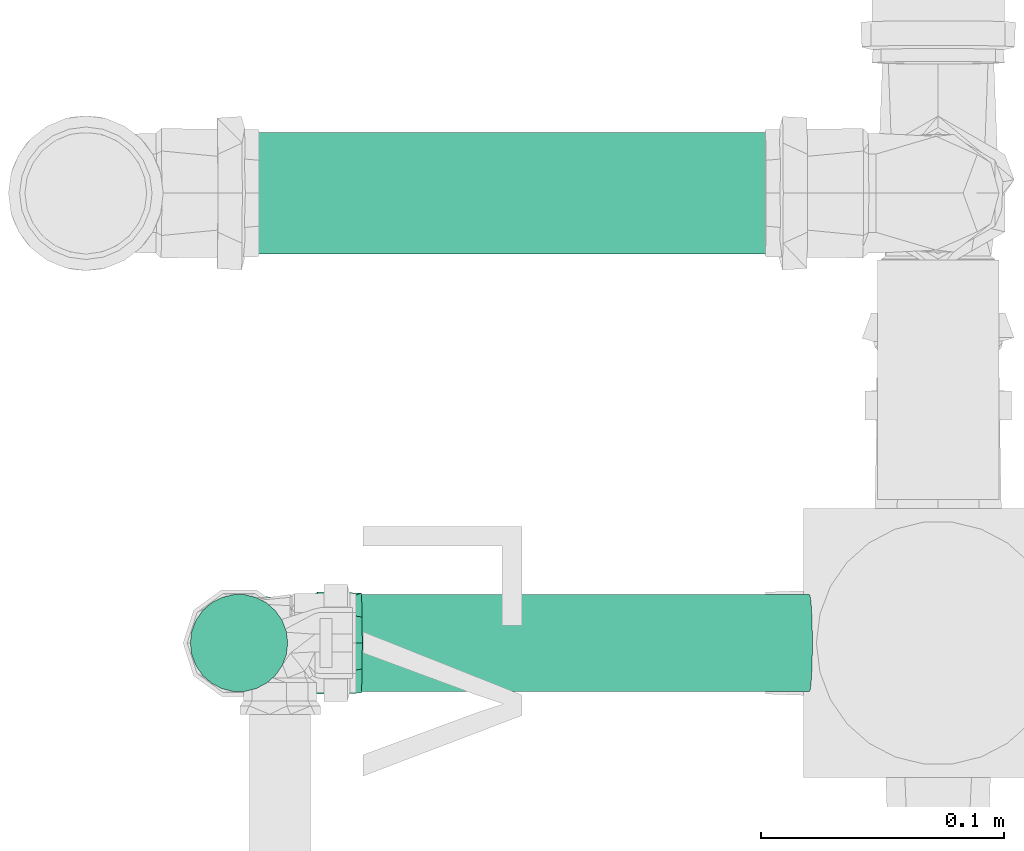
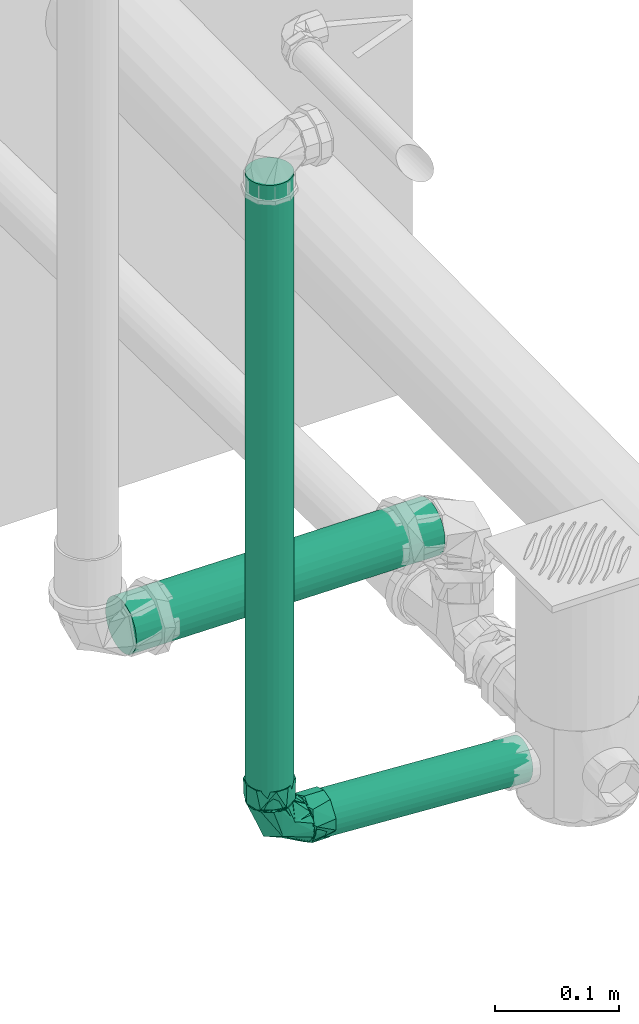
# One storey, part 213 of 589: 3 flow segments, 1 flow fitting.
"""IFC2X3 building model written with IfcOpenShell, lengths in millimetres."""

from ifc_helpers import new_model, entity, si_unit, converted_unit, derived_unit, direction, frame, frame_2d, origin, origin_2d_with_axis, place, context, subcontext, project, spatial, circle, extrude, faceted_brep, source, transform, mapped, material, type_object, type_shapes, element, save


model = new_model("IFC2X3")

# Units and contexts
model_context = context("Model", 3, precision=0.01, world=origin(), true_north=direction((6.123031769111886e-17, 1.0)))
body_context = subcontext(model_context, "Body", "Model", "MODEL_VIEW")
ifc_project = project(units=[si_unit("LENGTHUNIT", "METRE", prefix="MILLI"), si_unit("AREAUNIT", "SQUARE_METRE"), si_unit("VOLUMEUNIT", "CUBIC_METRE"), converted_unit("PLANEANGLEUNIT", "DEGREE", entity("IfcRatioMeasure", 0.017453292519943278), si_unit("PLANEANGLEUNIT", "RADIAN"), dimensions=[0, 0, 0, 0, 0, 0, 0]), si_unit("MASSUNIT", "GRAM", prefix="KILO"), derived_unit("MASSDENSITYUNIT", [(si_unit("MASSUNIT", "GRAM", prefix="KILO"), 1), (si_unit("LENGTHUNIT", "METRE"), -3)]), derived_unit("IONCONCENTRATIONUNIT", [(si_unit("MASSUNIT", "GRAM", prefix="KILO"), 1), (si_unit("LENGTHUNIT", "METRE"), -3)]), derived_unit("MOMENTOFINERTIAUNIT", [(si_unit("LENGTHUNIT", "METRE"), 4)]), si_unit("TIMEUNIT", "SECOND"), si_unit("FREQUENCYUNIT", "HERTZ"), si_unit("THERMODYNAMICTEMPERATUREUNIT", "DEGREE_CELSIUS"), derived_unit("THERMALTRANSMITTANCEUNIT", [(si_unit("MASSUNIT", "GRAM", prefix="KILO"), 1), (si_unit("THERMODYNAMICTEMPERATUREUNIT", "KELVIN"), -1), (si_unit("TIMEUNIT", "SECOND"), -3)]), derived_unit("THERMALCONDUCTANCEUNIT", [(si_unit("MASSUNIT", "GRAM", prefix="KILO"), 1), (si_unit("THERMODYNAMICTEMPERATUREUNIT", "KELVIN"), -1), (si_unit("TIMEUNIT", "SECOND"), -3), (si_unit("LENGTHUNIT", "METRE"), 1)]), derived_unit("VOLUMETRICFLOWRATEUNIT", [(si_unit("LENGTHUNIT", "METRE"), 3), (si_unit("TIMEUNIT", "SECOND"), -1)]), derived_unit("MASSFLOWRATEUNIT", [(si_unit("MASSUNIT", "GRAM", prefix="KILO"), 1), (si_unit("TIMEUNIT", "SECOND"), -1)]), derived_unit("ROTATIONALFREQUENCYUNIT", [(si_unit("TIMEUNIT", "SECOND"), -1)]), si_unit("ELECTRICCURRENTUNIT", "AMPERE"), si_unit("ELECTRICVOLTAGEUNIT", "VOLT"), si_unit("POWERUNIT", "WATT"), si_unit("FORCEUNIT", "NEWTON", prefix="KILO"), si_unit("ILLUMINANCEUNIT", "LUX"), si_unit("LUMINOUSFLUXUNIT", "LUMEN"), si_unit("LUMINOUSINTENSITYUNIT", "CANDELA"), derived_unit("USERDEFINED", [(si_unit("MASSUNIT", "GRAM", prefix="KILO"), -1), (si_unit("LENGTHUNIT", "METRE"), -2), (si_unit("TIMEUNIT", "SECOND"), 3), (si_unit("LUMINOUSFLUXUNIT", "LUMEN"), 1)]), derived_unit("USERDEFINED", [(si_unit("MASSUNIT", "GRAM", prefix="KILO"), 1), (si_unit("TIMEUNIT", "SECOND"), -3), (si_unit("LENGTHUNIT", "METRE"), 3), (si_unit("ELECTRICCURRENTUNIT", "AMPERE"), -2)]), derived_unit("SOUNDPOWERUNIT", [(si_unit("MASSUNIT", "GRAM", prefix="KILO"), 1), (si_unit("TIMEUNIT", "SECOND"), -3), (si_unit("LENGTHUNIT", "METRE"), 2)]), derived_unit("SOUNDPRESSUREUNIT", [(si_unit("MASSUNIT", "GRAM", prefix="KILO"), 1), (si_unit("LENGTHUNIT", "METRE"), -1), (si_unit("TIMEUNIT", "SECOND"), -2)]), derived_unit("LINEARVELOCITYUNIT", [(si_unit("LENGTHUNIT", "METRE"), 1), (si_unit("TIMEUNIT", "SECOND"), -1)]), si_unit("PRESSUREUNIT", "PASCAL"), derived_unit("USERDEFINED", [(si_unit("MASSUNIT", "GRAM", prefix="KILO"), 1), (si_unit("LENGTHUNIT", "METRE"), -2), (si_unit("TIMEUNIT", "SECOND"), -2)]), derived_unit("LINEARFORCEUNIT", [(si_unit("MASSUNIT", "GRAM", prefix="KILO"), 1), (si_unit("TIMEUNIT", "SECOND"), -2)]), derived_unit("PLANARFORCEUNIT", [(si_unit("MASSUNIT", "GRAM", prefix="KILO"), 1), (si_unit("LENGTHUNIT", "METRE"), -1), (si_unit("TIMEUNIT", "SECOND"), -2)]), derived_unit("SPECIFICHEATCAPACITYUNIT", [(si_unit("THERMODYNAMICTEMPERATUREUNIT", "KELVIN"), -1), (si_unit("LENGTHUNIT", "METRE"), 2), (si_unit("TIMEUNIT", "SECOND"), -2)]), derived_unit("HEATINGVALUEUNIT", [(si_unit("LENGTHUNIT", "METRE"), 2), (si_unit("TIMEUNIT", "SECOND"), -2)]), derived_unit("VAPORPERMEABILITYUNIT", [(si_unit("LENGTHUNIT", "METRE"), -1), (si_unit("TIMEUNIT", "SECOND"), 1)]), derived_unit("DYNAMICVISCOSITYUNIT", [(si_unit("MASSUNIT", "GRAM", prefix="KILO"), 1), (si_unit("TIMEUNIT", "SECOND"), -1), (si_unit("LENGTHUNIT", "METRE"), -1)]), derived_unit("THERMALEXPANSIONCOEFFICIENTUNIT", [(si_unit("THERMODYNAMICTEMPERATUREUNIT", "KELVIN"), -1)]), derived_unit("MODULUSOFELASTICITYUNIT", [(si_unit("MASSUNIT", "GRAM", prefix="KILO"), 1), (si_unit("LENGTHUNIT", "METRE"), -1), (si_unit("TIMEUNIT", "SECOND"), -2)]), derived_unit("ISOTHERMALMOISTURECAPACITYUNIT", [(si_unit("LENGTHUNIT", "METRE"), 3), (si_unit("MASSUNIT", "GRAM", prefix="KILO"), -1)]), derived_unit("MOISTUREDIFFUSIVITYUNIT", [(si_unit("TIMEUNIT", "SECOND"), -1), (si_unit("LENGTHUNIT", "METRE"), 2)])], contexts=[model_context])

# Site, building, storey
site_placement = place(None, origin())
site = spatial("IfcSite", under=ifc_project, at=site_placement, Name="Default", CompositionType="ELEMENT")
building_placement = place(site_placement, origin())
building = spatial("IfcBuilding", under=site, at=building_placement, CompositionType="ELEMENT")
storey_placement = place(building_placement, frame((0.0, 0.0, 100.0)))
storey = spatial("IfcBuildingStorey", under=building, at=storey_placement, Name="TÉRREO", CompositionType="ELEMENT", Elevation=100.0)

# Flow segments
pipe_segment_type = type_object("IfcPipeSegmentType", Name="Tipos de tubos:PVC Esgoto Série Normal", PredefinedType="NOTDEFINED")
flow_segment_1_placement = place(storey_placement, origin())
element("IfcFlowSegment", 1, at=flow_segment_1_placement, inside=storey, type_object=pipe_segment_type, Name="Tipos de tubos:PVC Esgoto Série Normal", ObjectType="Tipos de tubos:PVC Esgoto Série Normal", context=body_context, shape_type="SweptSolid", body=[
    extrude(circle(Radius=20.0, at=frame_2d((0.0, -1.68872840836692e-14), x_axis=(1.0, 0.0))), frame((10359.895167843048, 1172.3181290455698, -188.5028614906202), z_axis=(-0.998078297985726, 0.0, 0.06196540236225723), x_axis=(0.0, -1.0, 0.0)), (0.0, 0.0, 1.0), 202.43059250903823),
])
flow_segment_2_placement = place(storey_placement, origin())
element("IfcFlowSegment", 2, at=flow_segment_2_placement, inside=storey, type_object=pipe_segment_type, Name="Tipos de tubos:PVC Esgoto Série Normal", ObjectType="Tipos de tubos:PVC Esgoto Série Normal", context=body_context, shape_type="SweptSolid", body=[
    extrude(circle(Radius=20.0, at=origin_2d_with_axis()), frame((10125.654026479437, 1172.3181290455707, -143.10917777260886)), (0.0, 0.0, 1.0), 616.3091777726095),
])
flow_segment_3_placement = place(storey_placement, origin())
element("IfcFlowSegment", 3, at=flow_segment_3_placement, inside=storey, type_object=pipe_segment_type, Name="Tipos de tubos:PVC Esgoto Série Normal", ObjectType="Tipos de tubos:PVC Esgoto Série Normal", context=body_context, shape_type="SweptSolid", body=[
    extrude(circle(Radius=25.0, at=frame_2d((0.0, -2.5378429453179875e-14), x_axis=(1.0, 0.0))), frame((10381.855414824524, 1357.069248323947, -78.40005442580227), z_axis=(-0.9999500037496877, 0.0, 0.009999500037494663), x_axis=(0.0, 1.0, 0.0)), (0.0, 0.0, 1.0), 288.1941173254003),
])

# Flow fitting
ifc_material = material(Name="PVC Branco")
pipe_fitting_type = type_object("IfcPipeFittingType", Name="PVC Esgoto_Curva 90° Curta:a. Série Normal", PredefinedType="NOTDEFINED", material=ifc_material)
shared_shape = source(origin(), body_context, "Body", "Brep", [
    faceted_brep([(17.961036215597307, 31.85321923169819, 10.0), (20.63999240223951, 31.79964010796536, 0.0), (17.961036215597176, 31.853219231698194, -10.0), (5.819337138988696, 32.09605321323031, -19.318516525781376), (-4.531354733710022, 32.30306705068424, -19.31851652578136), (-16.67305381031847, 32.545901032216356, -10.0), (-19.352009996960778, 32.59948015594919, 0.0), (-16.673053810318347, 32.54590103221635, 10.0), (-4.531354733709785, 32.303067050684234, 19.318516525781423), (5.819337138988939, 32.096053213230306, 19.318516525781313), (19.378093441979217, 29.02431814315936, 6.84041311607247), (15.905813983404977, 29.093763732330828, 12.855768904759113), (20.584003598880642, 29.000199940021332, 0.0), (7.427001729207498, 29.263339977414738, 18.793865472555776), (0.5880023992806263, 29.40011996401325, 20.0), (-12.265223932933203, 29.657184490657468, 15.320851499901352), (-18.202100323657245, 29.775922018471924, 6.840381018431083), (-19.407998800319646, 29.800039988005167, 0.0), (-6.251109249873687, 29.536902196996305, 18.79382458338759), (-18.202100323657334, 29.775922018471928, -6.840381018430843), (-14.729853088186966, 29.70647707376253, -12.855716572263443), (-6.25110924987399, 29.53690219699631, -18.79382458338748), (0.588002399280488, 29.40011996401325, -20.0), (13.441163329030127, 29.143056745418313, -15.32090639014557), (19.378093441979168, 29.02431814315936, -6.8404131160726), (7.427001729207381, 29.263339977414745, -18.79386547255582), (-11.35075352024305, -12.626805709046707, 0.0), (-29.405999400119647, -18.793848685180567, 6.8404131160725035), (-29.405999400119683, -19.396924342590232, 3.420206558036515), (-29.405999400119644, -20.0, 0.0), (-29.40599940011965, -15.320874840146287, 12.855768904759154), (-29.405999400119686, -17.057361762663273, 9.848091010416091), (-2.3339581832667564, 2.3811033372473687, 18.02101843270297), (-29.40599940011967, -6.840366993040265, 18.793865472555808), (-29.405999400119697, -11.080620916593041, 15.824817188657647), (-29.405999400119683, 0.0, 20.0), (-29.40599940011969, -3.420183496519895, 19.396932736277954), (-12.878045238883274, 13.138181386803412, 18.95216884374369), (12.851249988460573, 11.095996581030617, 0.0), (5.594072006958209, -5.707072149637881, 0.0), (-29.405999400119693, 6.840479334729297, 18.79382458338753), (-29.405999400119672, 3.4202396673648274, 19.396912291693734), (-29.405999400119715, 18.793860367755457, 6.840381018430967), (-29.405999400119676, 15.824828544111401, 11.080616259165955), (-29.405999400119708, 12.855796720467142, 15.320851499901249), (-22.405985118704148, 22.858585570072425, 0.0), (-29.40599940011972, 20.0, 0.0), (-29.405999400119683, 19.396930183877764, 3.4201905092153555), (-29.405999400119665, 9.848138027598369, 17.0573380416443), (-14.138248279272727, 14.423838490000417, -18.24666465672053), (-29.405999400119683, 0.0, -20.0), (-29.40599940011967, 3.4202396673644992, -19.396912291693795), (-29.405999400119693, 6.840479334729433, -18.79382458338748), (-29.405999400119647, -18.79384868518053, -6.840413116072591), (-29.40599940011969, -15.824789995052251, -11.080659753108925), (-29.405999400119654, -12.85573130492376, -15.32090639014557), (-2.333957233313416, 2.3811024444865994, -18.021017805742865), (-29.405999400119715, 18.793860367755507, -6.840381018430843), (-29.405999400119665, 11.080699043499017, -15.824770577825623), (-29.405999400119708, 15.320918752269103, -12.855716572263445), (-29.405999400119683, -19.396924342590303, -3.420206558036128), (-29.405999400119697, -9.848049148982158, -17.0573859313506), (-29.40599940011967, -6.840366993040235, -18.79386547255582), (-29.40599940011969, -3.420183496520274, -19.396932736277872), (-29.405999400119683, 19.39693018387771, -3.4201905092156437), (-29.405999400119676, 17.05738956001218, -9.848048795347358), (-30.20599940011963, -8.21241269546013, -16.988887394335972), (-30.20599940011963, -11.248444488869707, -14.659258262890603), (-30.20599940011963, -14.28447628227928, -12.329629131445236), (-30.20599940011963, -17.320508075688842, -10.0), (-30.20599940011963, -18.66025403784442, -5.0), (-30.20599940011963, -20.0, 0.0), (-30.20599940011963, -18.660254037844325, 5.0), (-30.20599940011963, -17.320508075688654, 10.0), (-30.20599940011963, -14.284476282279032, 12.329629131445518), (-30.20599940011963, -11.248444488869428, 14.659258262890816), (-30.20599940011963, -8.21241269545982, 16.988887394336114), (-30.20599940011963, -5.1763809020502, 19.318516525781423), (-30.20599940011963, 0.0, 19.31851652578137), (-30.20599940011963, 5.176380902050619, 19.318516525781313), (-30.20599940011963, 8.21241269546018, 16.98888739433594), (-30.20599940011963, 11.248444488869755, 14.65925826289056), (-30.205999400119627, 14.284476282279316, 12.329629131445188), (-30.20599940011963, 17.320508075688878, 10.0), (-30.20599940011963, 18.66025403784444, 5.0), (-30.20599940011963, 20.0, 0.0), (-30.20599940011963, 18.66025403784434, -5.0), (-30.20599940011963, 17.32050807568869, -10.0), (-30.20599940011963, 14.284476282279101, -12.329629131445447), (-30.20599940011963, 11.24844448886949, -14.659258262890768), (-30.20599940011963, 8.212412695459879, -16.988887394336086), (-30.20599940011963, 5.1763809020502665, -19.318516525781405), (-30.20599940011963, 0.0, -19.318516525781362), (-30.20599940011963, -5.176380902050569, -19.318516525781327)], [[[0, 1, 2, 3, 4, 5, 6, 7, 8, 9]], [[10, 1, 0]], [[11, 0, 9]], [[12, 1, 10]], [[11, 10, 0]], [[13, 11, 9]], [[9, 14, 13]], [[15, 8, 7]], [[7, 6, 16]], [[17, 16, 6]], [[14, 8, 18]], [[15, 18, 8]], [[16, 15, 7]], [[8, 14, 9]], [[19, 6, 5]], [[20, 5, 4]], [[17, 6, 19]], [[20, 19, 5]], [[21, 20, 4]], [[4, 22, 21]], [[23, 3, 2]], [[2, 1, 24]], [[12, 24, 1]], [[22, 3, 25]], [[23, 25, 3]], [[24, 23, 2]], [[3, 22, 4]], [[26, 27, 28, 29]], [[26, 30, 31, 27]], [[32, 33, 34, 30]], [[32, 35, 36, 33]], [[35, 32, 37]], [[11, 38, 10]], [[26, 32, 30]], [[32, 39, 38]], [[37, 40, 41, 35]], [[37, 42, 43, 44]], [[45, 46, 47, 42]], [[16, 45, 42]], [[37, 44, 48, 40]], [[39, 32, 26]], [[14, 18, 37]], [[32, 11, 13]], [[14, 37, 32]], [[32, 38, 11]], [[12, 10, 38]], [[45, 16, 17]], [[37, 15, 16]], [[37, 16, 42]], [[15, 37, 18]], [[32, 13, 14]], [[49, 50, 51, 52]], [[49, 21, 22]], [[26, 53, 54, 55]], [[56, 39, 26]], [[49, 57, 19]], [[49, 52, 58, 59]], [[56, 50, 49]], [[26, 29, 60, 53]], [[56, 55, 61, 62]], [[56, 62, 63, 50]], [[26, 55, 56]], [[45, 57, 64, 46]], [[45, 17, 19]], [[24, 12, 38]], [[23, 56, 25]], [[49, 20, 21]], [[49, 19, 20]], [[56, 49, 22]], [[56, 23, 38]], [[49, 59, 65, 57]], [[38, 39, 56]], [[24, 38, 23]], [[56, 22, 25]], [[19, 57, 45]], [[66, 67, 68, 69, 70, 71, 72, 73, 74, 75, 76, 77, 78, 79, 80, 81, 82, 83, 84, 85, 86, 87, 88, 89, 90, 91, 92, 93]], [[47, 46, 85]], [[33, 77, 76]], [[80, 40, 48]], [[48, 44, 81]], [[33, 76, 34]], [[81, 80, 48]], [[84, 83, 42]], [[82, 81, 44]], [[73, 72, 27]], [[85, 84, 47]], [[78, 41, 79]], [[77, 36, 78]], [[30, 75, 74, 73]], [[73, 27, 31, 30]], [[77, 33, 36]], [[71, 28, 72]], [[44, 43, 82]], [[36, 35, 78]], [[41, 40, 79]], [[34, 76, 75]], [[43, 42, 83]], [[75, 30, 34]], [[41, 78, 35]], [[84, 42, 47]], [[80, 79, 40]], [[43, 83, 82]], [[28, 71, 29]], [[28, 27, 72]], [[60, 29, 71]], [[52, 91, 90]], [[66, 62, 61]], [[61, 55, 67]], [[52, 90, 58]], [[67, 66, 61]], [[70, 69, 53]], [[68, 67, 55]], [[87, 86, 57]], [[71, 70, 60]], [[92, 63, 93]], [[91, 51, 92]], [[59, 89, 88, 87]], [[87, 57, 65, 59]], [[91, 52, 51]], [[85, 64, 86]], [[55, 54, 68]], [[51, 50, 92]], [[63, 62, 93]], [[90, 89, 58]], [[54, 53, 69]], [[89, 59, 58]], [[63, 92, 50]], [[70, 53, 60]], [[66, 93, 62]], [[54, 69, 68]], [[64, 85, 46]], [[64, 57, 86]]]),
    faceted_brep([(-32.20599940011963, -17.320508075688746, -10.0), (-32.20599940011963, -20.0, 0.0), (-32.20599940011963, -17.320508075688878, 10.0), (-32.20599940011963, -5.176380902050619, 19.318516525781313), (-32.20599940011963, 5.1763809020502, 19.318516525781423), (-32.20599940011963, 17.320508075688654, 10.0), (-32.20599940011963, 20.0, 0.0), (-32.20599940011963, 17.320508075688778, -10.0), (-32.20599940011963, 5.17638090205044, -19.31851652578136), (-32.20599940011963, -5.176380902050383, -19.318516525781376), (-29.40599940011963, -20.0, 0.0), (-29.40599940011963, -15.320920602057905, 12.855714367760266), (-29.40599940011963, 3.4728419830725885, 19.696176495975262), (-29.40599940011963, 15.320777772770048, 12.855884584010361), (-29.40599940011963, 20.0, 0.0), (-29.40599940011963, 15.320777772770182, -12.855884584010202), (-29.405999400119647, 5.923858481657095, -16.27601124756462), (-29.40599940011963, -3.473060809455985, -19.69613791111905), (-29.40599940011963, -15.320920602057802, -12.855714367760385), (12.85124998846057, 11.095996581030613, 0.0), (19.378093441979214, 29.024318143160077, 6.8404131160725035), (16.409628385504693, 29.083687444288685, 11.080659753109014), (13.441163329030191, 29.143056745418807, 15.320906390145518), (5.594072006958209, -5.707072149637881, 0.0), (-3.0189256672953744, 1.4413580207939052, 17.919138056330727), (-11.350753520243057, -12.626805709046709, 0.0), (-13.807968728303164, 12.593198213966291, 18.87014454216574), (-6.251109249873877, 29.53690219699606, 18.793824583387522), (-10.490481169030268, 29.621689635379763, 15.824770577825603), (-14.729853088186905, 29.70647707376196, 12.855716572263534), (-22.405985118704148, 22.858585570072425, 0.0), (-18.20210032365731, 29.775922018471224, 6.84038101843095), (-18.805049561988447, 29.787981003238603, 3.4201905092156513), (-19.407998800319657, 29.80003998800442, 0.0), (7.427001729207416, 29.26333997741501, 18.793865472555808), (4.007502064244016, 29.331729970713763, 19.396932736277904), (0.5880023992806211, 29.400119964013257, 20.0), (10.434082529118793, 29.203198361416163, 17.057385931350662), (20.58400359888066, 29.000199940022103, 0.0), (19.981048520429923, 29.012259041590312, 3.420206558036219), (-2.8315534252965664, 29.46851108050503, 19.396912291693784), (-16.465976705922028, 29.74119954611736, 9.84804879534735), (-12.878069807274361, 13.13814230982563, -18.95217245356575), (-12.265223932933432, 29.657184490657, -15.32085149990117), (-9.258166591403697, 29.59704334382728, -17.057338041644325), (-6.251109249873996, 29.53690219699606, -18.79382458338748), (-18.202100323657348, 29.775922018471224, -6.840381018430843), (-2.142006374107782, 2.6554433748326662, -18.049846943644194), (-18.80504956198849, 29.787981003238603, -3.4201905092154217), (-15.233662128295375, 29.716553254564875, -11.080616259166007), (19.378093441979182, 29.02431814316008, -6.840413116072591), (19.981048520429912, 29.012259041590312, -3.4202065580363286), (0.5880023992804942, 29.400119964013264, -20.0), (4.0075020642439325, 29.331729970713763, -19.396932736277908), (7.427001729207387, 29.26333997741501, -18.79386547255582), (11.666407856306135, 29.178551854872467, -15.824817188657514), (15.905813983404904, 29.09376373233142, -12.855768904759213), (17.64195371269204, 29.05904093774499, -9.8480910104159), (-2.831553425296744, 29.46851108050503, -19.39691229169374), (-4.571346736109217, 30.303466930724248, -19.31851652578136), (-7.60677150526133, 30.364175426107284, -16.988887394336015), (-10.64219627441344, 30.424883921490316, -14.659258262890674), (-13.677621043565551, 30.48559241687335, -12.329629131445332), (-16.713045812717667, 30.54630091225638, -10.0), (-18.052523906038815, 30.573090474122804, -5.0), (-19.392001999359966, 30.599880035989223, 0.0), (-18.052523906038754, 30.573090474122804, 5.0), (-16.71304581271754, 30.54630091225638, 10.0), (-13.67762104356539, 30.48559241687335, 12.329629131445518), (-10.642196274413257, 30.424883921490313, 14.659258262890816), (-7.606771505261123, 30.364175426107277, 16.988887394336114), (-4.571346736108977, 30.303466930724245, 19.318516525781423), (0.6039992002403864, 30.199960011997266, 19.31851652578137), (5.779345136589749, 30.096453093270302, 19.318516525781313), (8.814769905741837, 30.035744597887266, 16.98888739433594), (11.85019467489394, 29.975036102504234, 14.65925826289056), (14.885619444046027, 29.9143276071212, 12.329629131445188), (17.92104421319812, 29.853619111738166, 10.0), (19.26052230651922, 29.82682954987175, 5.0), (20.60000039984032, 29.80003998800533, 0.0), (19.260522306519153, 29.82682954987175, -5.0), (17.921044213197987, 29.85361911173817, -10.0), (14.885619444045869, 29.914327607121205, -12.329629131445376), (11.850194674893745, 29.975036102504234, -14.659258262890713), (8.814769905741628, 30.03574459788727, -16.988887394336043), (5.779345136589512, 30.096453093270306, -19.318516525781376), (0.6039992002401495, 30.199960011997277, -19.31851652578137)], [[[0, 1, 2, 3, 4, 5, 6, 7, 8, 9]], [[10, 11, 2]], [[10, 2, 1]], [[2, 11, 3]], [[11, 12, 3]], [[4, 12, 13]], [[5, 13, 14]], [[13, 5, 4]], [[5, 14, 6]], [[12, 4, 3]], [[14, 15, 7]], [[14, 7, 6]], [[7, 15, 8]], [[8, 15, 16, 17]], [[9, 17, 18]], [[0, 18, 10]], [[18, 0, 9]], [[0, 10, 1]], [[17, 9, 8]], [[19, 20, 21, 22]], [[23, 24, 25]], [[26, 13, 12]], [[25, 24, 11]], [[24, 23, 19]], [[26, 27, 28, 29]], [[14, 13, 30]], [[11, 10, 25]], [[30, 31, 32, 33]], [[31, 30, 13]], [[24, 34, 35, 36]], [[24, 26, 12]], [[24, 22, 37, 34]], [[11, 24, 12]], [[19, 38, 39, 20]], [[26, 36, 40, 27]], [[13, 29, 41, 31]], [[13, 26, 29]], [[36, 26, 24]], [[22, 24, 19]], [[15, 14, 30]], [[42, 43, 44, 45]], [[15, 30, 46]], [[16, 15, 42, 17]], [[47, 25, 18]], [[47, 18, 17]], [[42, 15, 46]], [[30, 33, 48, 46]], [[42, 46, 49, 43]], [[19, 50, 51, 38]], [[47, 52, 53, 54]], [[47, 54, 55, 56]], [[42, 52, 47]], [[19, 56, 57, 50]], [[25, 47, 23]], [[19, 23, 47]], [[25, 10, 18]], [[19, 47, 56]], [[17, 42, 47]], [[42, 45, 58, 52]], [[59, 60, 61, 62, 63, 64, 65, 66, 67, 68, 69, 70, 71, 72, 73, 74, 75, 76, 77, 78, 79, 80, 81, 82, 83, 84, 85, 86]], [[39, 38, 79]], [[21, 77, 76]], [[74, 34, 37]], [[37, 22, 75]], [[79, 78, 39]], [[75, 74, 37]], [[74, 73, 34]], [[76, 75, 22]], [[22, 21, 76]], [[78, 77, 20]], [[72, 35, 73]], [[27, 70, 28]], [[29, 69, 68, 67]], [[67, 31, 41, 29]], [[71, 27, 40]], [[65, 32, 66]], [[71, 40, 72]], [[40, 36, 72]], [[67, 66, 31]], [[28, 70, 69]], [[35, 34, 73]], [[69, 29, 28]], [[35, 72, 36]], [[78, 20, 39]], [[21, 20, 77]], [[27, 71, 70]], [[32, 65, 33]], [[32, 31, 66]], [[48, 33, 65]], [[54, 85, 84]], [[60, 45, 44]], [[44, 43, 61]], [[54, 84, 55]], [[61, 60, 44]], [[64, 63, 46]], [[62, 61, 43]], [[81, 80, 50]], [[65, 64, 48]], [[86, 58, 59]], [[85, 53, 86]], [[56, 83, 82, 81]], [[81, 50, 57, 56]], [[85, 54, 53]], [[79, 51, 80]], [[43, 49, 62]], [[53, 52, 86]], [[58, 45, 59]], [[55, 84, 83]], [[49, 46, 63]], [[83, 56, 55]], [[58, 86, 52]], [[64, 46, 48]], [[60, 59, 45]], [[49, 63, 62]], [[51, 79, 38]], [[51, 50, 80]]]),
    faceted_brep([(5.819337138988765, 32.09605321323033, 19.31851652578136), (17.961036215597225, 31.853219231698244, 10.0), (20.63999240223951, 31.799640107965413, 0.0), (17.96103621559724, 31.853219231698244, -10.0), (5.8193371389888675, 32.09605321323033, -19.318516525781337), (-4.531354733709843, 32.30306705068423, -19.31851652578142), (-16.67305381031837, 32.54590103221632, -10.0), (-19.352009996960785, 32.59948015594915, 0.0), (-16.673053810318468, 32.54590103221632, 10.0), (-4.531354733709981, 32.303067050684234, 19.318516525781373), (-4.571346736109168, 30.303466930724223, 19.318516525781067), (-16.713045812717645, 30.54630091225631, 10.0), (-19.39200199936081, 30.599880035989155, 0.0), (-16.713045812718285, 30.546300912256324, -10.0), (-4.571346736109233, 30.303466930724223, -19.318516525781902), (5.779345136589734, 30.096453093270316, -19.31851652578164), (17.92104421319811, 29.853619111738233, -10.0), (20.60000039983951, 29.800039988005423, 0.0), (17.92104421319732, 29.853619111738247, 10.0), (5.779345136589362, 30.096453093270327, 19.31851652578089), (16.960145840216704, 31.873237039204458, -13.688192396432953), (21.93973248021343, 31.77364530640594, 0.0), (4.344880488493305, 32.12554234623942, -20.97588948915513), (-20.651750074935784, 32.625474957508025, 0.0), (-15.668729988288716, 32.52581455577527, -13.692285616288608), (-5.661924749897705, 32.32567845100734, -17.33408755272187), (-15.668729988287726, 32.52581455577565, 13.69228561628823), (-3.0516373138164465, 32.27347270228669, 20.976817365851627), (16.960145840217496, 31.87323703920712, 13.688192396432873), (6.954254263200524, 32.073354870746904, 17.332504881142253), (-4.507824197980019, 50.30619608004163, -20.574220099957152), (-4.171426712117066, 50.29946813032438, -19.318516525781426), (6.1792651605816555, 50.09245429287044, -19.318516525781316), (-17.438733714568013, 50.56481427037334, -10.649999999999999), (6.515662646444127, 50.0857263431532, -20.57422009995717), (-16.31312578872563, 50.54230211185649, -10.0), (-18.99208197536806, 50.59588123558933, 0.0), (-20.29182205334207, 50.62187603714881, 0.0), (-16.313125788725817, 50.54230211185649, 10.0), (-17.438733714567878, 50.56481427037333, 10.650000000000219), (-4.1714267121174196, 50.29946813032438, 19.318516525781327), (-4.5078241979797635, 50.30619608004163, 20.574220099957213), (6.179265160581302, 50.09245429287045, 19.3185165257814), (6.515662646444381, 50.08572634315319, 20.574220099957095), (18.320964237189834, 49.84962031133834, 10.0), (19.446572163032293, 49.827108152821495, 10.649999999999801), (22.299660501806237, 49.770046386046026, 0.0), (20.99992042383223, 49.796041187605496, 0.0), (19.44657216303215, 49.8271081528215, -10.650000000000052), (18.320964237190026, 49.84962031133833, -10.0)], [[[0, 1, 2, 3, 4, 5, 6, 7, 8, 9]], [[10, 11, 12, 13, 14, 15, 16, 17, 18, 19]], [[16, 15, 20]], [[17, 16, 21]], [[21, 16, 20]], [[15, 22, 20]], [[23, 13, 12]], [[24, 14, 13]], [[15, 14, 22]], [[23, 24, 13]], [[25, 22, 14, 24]], [[11, 10, 26]], [[12, 11, 23]], [[23, 11, 26]], [[10, 27, 26]], [[21, 18, 17]], [[28, 19, 18]], [[10, 19, 27]], [[21, 28, 18]], [[29, 27, 19, 28]], [[30, 31, 32]], [[31, 30, 33]], [[32, 34, 30]], [[33, 35, 31]], [[33, 36, 35]], [[36, 33, 37]], [[38, 36, 37]], [[38, 37, 39]], [[39, 40, 38]], [[39, 41, 40]], [[40, 41, 42]], [[43, 42, 41]], [[43, 44, 42]], [[44, 43, 45]], [[46, 44, 45]], [[47, 44, 46]], [[48, 47, 46]], [[48, 49, 47]], [[49, 48, 34]], [[34, 32, 49]], [[46, 45, 21]], [[45, 28, 21]], [[28, 45, 43]], [[43, 27, 29, 28]], [[26, 41, 39]], [[23, 39, 37]], [[41, 26, 27]], [[26, 39, 23]], [[41, 27, 43]], [[37, 33, 23]], [[33, 24, 23]], [[24, 33, 30]], [[30, 22, 25, 24]], [[20, 34, 48]], [[21, 48, 46]], [[34, 20, 22]], [[20, 48, 21]], [[34, 22, 30]], [[3, 2, 47, 49]], [[4, 3, 49, 32]], [[32, 31, 5, 4]], [[6, 5, 31, 35]], [[7, 6, 35, 36]], [[8, 7, 36, 38]], [[9, 8, 38, 40]], [[40, 42, 0, 9]], [[1, 0, 42, 44]], [[2, 1, 44, 47]]]),
    faceted_brep([(-50.20599940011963, -5.512845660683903, -20.574220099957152), (-50.20599940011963, -5.176380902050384, -19.318516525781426), (-50.20599940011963, 5.176380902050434, -19.318516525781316), (-50.20599940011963, -18.446341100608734, -10.649999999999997), (-50.20599940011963, 5.512845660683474, -20.57422009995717), (-50.20599940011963, -17.320508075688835, -10.0), (-50.20599940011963, -20.0, 0.0), (-50.20599940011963, -21.300000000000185, 0.0), (-50.20599940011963, -17.320508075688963, 10.0), (-50.20599940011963, -18.4463411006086, 10.650000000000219), (-50.20599940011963, -5.176380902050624, 19.318516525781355), (-50.20599940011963, -5.512845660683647, 20.574220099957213), (-50.20599940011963, 5.176380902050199, 19.318516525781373), (-50.20599940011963, 5.512845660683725, 20.574220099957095), (-50.20599940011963, 17.320508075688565, 10.0), (-50.20599940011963, 18.44634110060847, 10.649999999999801), (-50.20599940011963, 21.299999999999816, 0.0), (-50.20599940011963, 20.0, 0.0), (-50.20599940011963, 18.446341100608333, -10.650000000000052), (-50.20599940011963, 17.320508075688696, -10.0), (-32.20599940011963, 21.299999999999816, 0.0), (-32.205999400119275, 16.319417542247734, 13.688192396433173), (-32.205999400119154, 3.701629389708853, 20.975889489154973), (-32.20599940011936, -16.315983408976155, 13.692285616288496), (-32.20599940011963, -21.300000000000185, 0.0), (-32.20599940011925, -6.307177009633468, 17.334087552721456), (-32.20599940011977, -16.31598340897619, -13.692285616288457), (-32.20599940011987, -3.6963675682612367, -20.976817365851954), (-32.2059994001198, 16.319417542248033, -13.688192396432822), (-32.20599940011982, 6.311524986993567, -17.332504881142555), (-32.20599940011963, -5.176380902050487, 19.31851652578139), (-32.20599940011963, 5.176380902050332, 19.318516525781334), (-32.20599940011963, 17.320508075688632, 10.0), (-32.20599940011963, 20.0, 0.0), (-32.20599940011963, 17.320508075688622, -10.0), (-32.20599940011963, 5.176380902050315, -19.318516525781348), (-32.20599940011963, -5.1763809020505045, -19.318516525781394), (-32.20599940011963, -17.3205080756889, -10.0), (-32.20599940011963, -20.0, 0.0), (-32.20599940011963, -17.32050807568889, 10.0), (-30.20599940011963, -5.176380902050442, 19.31851652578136), (-30.20599940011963, -17.320508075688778, 10.0), (-30.20599940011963, -20.0, 0.0), (-30.20599940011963, -17.320508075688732, -10.0), (-30.20599940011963, -5.176380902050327, -19.318516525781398), (-30.20599940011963, 5.176380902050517, -19.318516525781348), (-30.20599940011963, 17.320508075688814, -10.0), (-30.20599940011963, 20.0, 0.0), (-30.20599940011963, 17.320508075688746, 10.0), (-30.20599940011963, 5.176380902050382, 19.318516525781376)], [[[0, 1, 2]], [[1, 0, 3]], [[2, 4, 0]], [[3, 5, 1]], [[3, 6, 5]], [[6, 3, 7]], [[8, 6, 7]], [[8, 7, 9]], [[9, 10, 8]], [[9, 11, 10]], [[10, 11, 12]], [[13, 12, 11]], [[13, 14, 12]], [[14, 13, 15]], [[16, 14, 15]], [[17, 14, 16]], [[18, 17, 16]], [[18, 19, 17]], [[19, 18, 4]], [[4, 2, 19]], [[16, 15, 20]], [[15, 21, 20]], [[21, 15, 13]], [[21, 13, 22]], [[23, 11, 9]], [[24, 9, 7]], [[11, 23, 25, 22]], [[23, 9, 24]], [[11, 22, 13]], [[7, 3, 24]], [[3, 26, 24]], [[26, 3, 0]], [[26, 0, 27]], [[28, 4, 18]], [[20, 18, 16]], [[4, 28, 29, 27]], [[28, 18, 20]], [[4, 27, 0]], [[30, 31, 32, 33, 34, 35, 36, 37, 38, 39]], [[40, 41, 42, 43, 44, 45, 46, 47, 48, 49]], [[45, 28, 46]], [[47, 46, 20]], [[20, 46, 28]], [[27, 45, 44]], [[26, 44, 43]], [[24, 43, 42]], [[45, 27, 29, 28]], [[26, 27, 44]], [[24, 26, 43]], [[40, 23, 41]], [[42, 41, 24]], [[24, 41, 23]], [[22, 40, 49]], [[21, 49, 48]], [[20, 48, 47]], [[40, 22, 25, 23]], [[21, 22, 49]], [[20, 21, 48]], [[34, 33, 17, 19]], [[35, 34, 19, 2]], [[2, 1, 36, 35]], [[37, 36, 1, 5]], [[38, 37, 5, 6]], [[39, 38, 6, 8]], [[30, 39, 8, 10]], [[10, 12, 31, 30]], [[32, 31, 12, 14]], [[33, 32, 14, 17]]]),
])
type_shapes(pipe_fitting_type, [shared_shape])
flow_fitting_placement = place(storey_placement, frame((10125.654026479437, 1172.3181290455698, -175.31517717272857), z_axis=(0.0, -1.0, 0.0), x_axis=(0.0, 0.0, -1.0)))
element("IfcFlowFitting", 4, at=flow_fitting_placement, inside=storey, type_object=pipe_fitting_type, material=ifc_material, Name="PVC Esgoto_Curva 90° Curta:a. Série Normal", ObjectType="PVC Esgoto_Curva 90° Curta:a. Série Normal", context=body_context, shape_type="MappedRepresentation", body=[
    mapped(shared_shape, transform((0.0, 0.0, 0.0), scale=1.0)),
])

save(model, "model.ifc")
